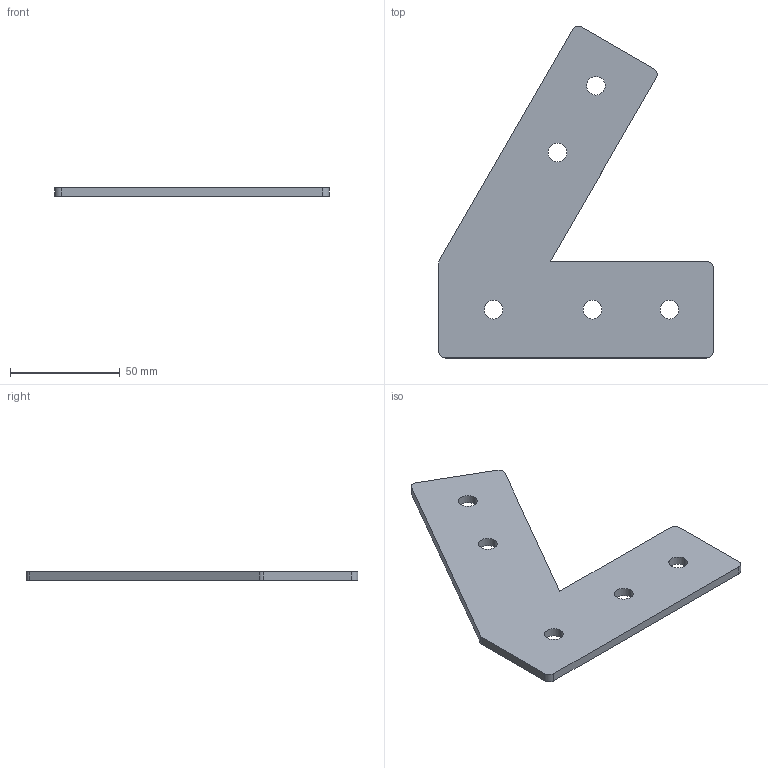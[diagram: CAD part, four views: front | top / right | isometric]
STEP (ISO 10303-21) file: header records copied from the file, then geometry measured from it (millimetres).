
FILE_DESCRIPTION (( 'STEP AP214' ), '1' );
FILE_NAME ('G-5-ugol_60-50.STEP', '2026-10-07T06:51:43', ( '' ), ( '' ), 'SwSTEP 2.0', 'SolidWorks 2022', '' );
FILE_SCHEMA (( 'AUTOMOTIVE_DESIGN' ));
Length unit declared in the file: millimetre
Products named in the file (1): G-5-ugol_60-50
Bounding box: 125 x 151.16 x 4 mm (x, y, z)
Volume: 40590.7 mm3; surface area: 23026.7 mm2
Topology: 1 solids, 1 shells, 25 faces, 69 edges, 46 vertices
Faces by surface type: cylinder 16, plane 9
Entity records: 869 total; most frequent: DIRECTION 153, CARTESIAN_POINT 141, ORIENTED_EDGE 138, EDGE_CURVE 69, AXIS2_PLACEMENT_3D 58, VERTEX_POINT 46, VECTOR 37, LINE 37
